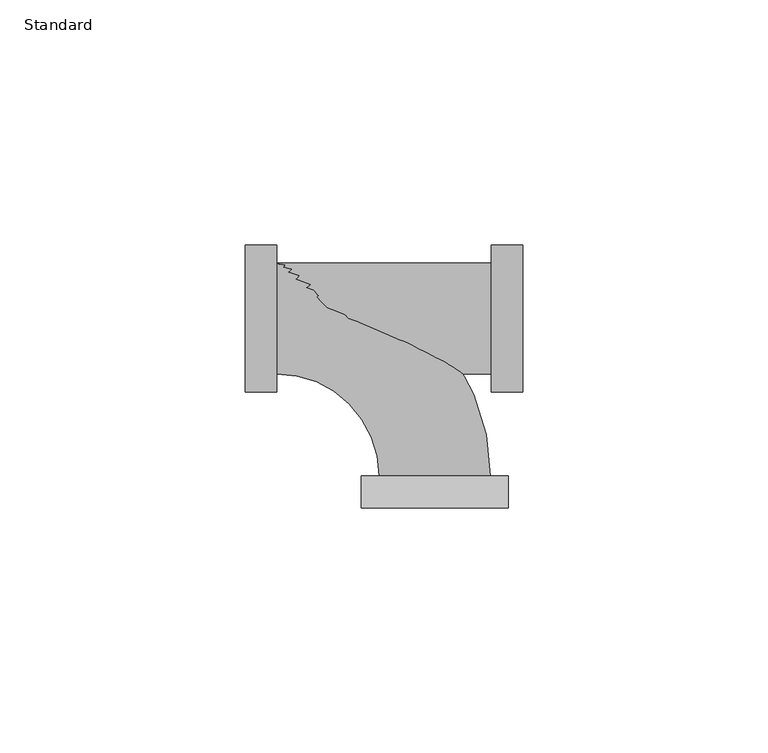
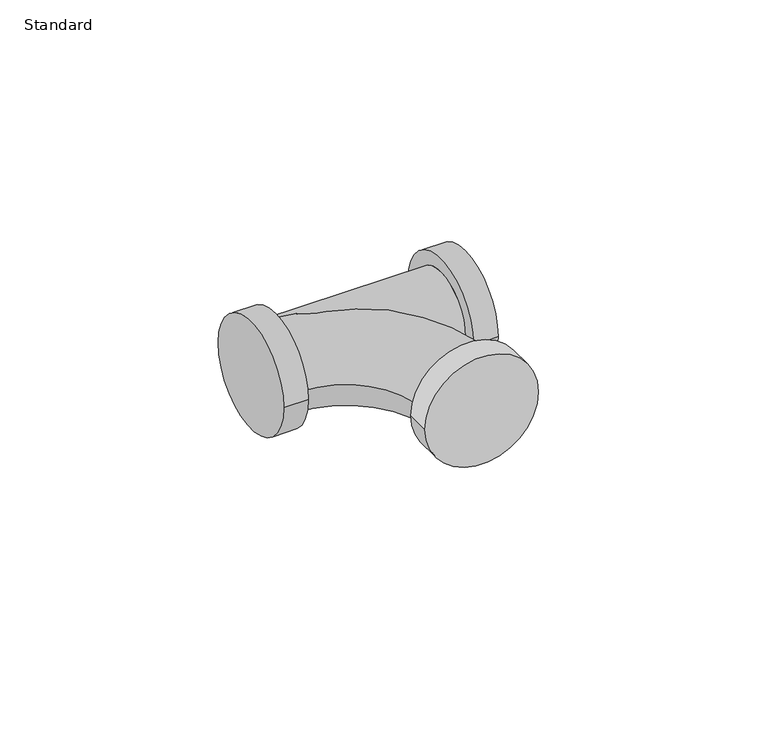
"""IFC4 building model written with IfcOpenShell, lengths in millimetres: pipe fitting geometry, Tee_Lubrizol_CPVC-FlowGuard_MX : Standard."""

import ifcopenshell
import ifcopenshell.guid

model = None  # the IFC model being written
_history = None  # IfcOwnerHistory: only IFC2X3 demands one
_inside = {}  # id of a spatial element -> (the spatial element, [elements in it])
_under = {}  # id of a project, library or spatial element -> (it, [spatial elements below it])
_declared = {}  # id of a project -> (the project, [libraries it declares])
_typed = {}  # id of a type object -> (the type object, [elements of that type])
_made_of = {}  # id of a material, layer set ... -> (it, [elements and type objects made of it])


def new_model(schema):
    """Start an empty IFC model of exactly this schema.

    Asked for "IFC4X3", IfcOpenShell would pick the latest addendum, in which some entities
    have other attributes; the version numbers below select the first issue.
    IFC2X3 requires an IfcOwnerHistory on every rooted entity: one is made here for all.
    """
    global model, _history
    if schema == "IFC4X3":
        model = ifcopenshell.file(schema_version=(4, 3, 0, 0))
    else:
        model = ifcopenshell.file(schema=schema)
    _inside.clear()
    _under.clear()
    _declared.clear()
    _typed.clear()
    _made_of.clear()
    _history = None
    if model.schema == "IFC2X3":
        org = make("IfcOrganization", Name="unknown")
        user = make(
            "IfcPersonAndOrganization",
            ThePerson=make("IfcPerson", FamilyName="unknown"),
            TheOrganization=org,
        )
        app = make(
            "IfcApplication",
            ApplicationDeveloper=org,
            Version="unknown",
            ApplicationFullName="unknown",
            ApplicationIdentifier="unknown",
        )
        _history = make(
            "IfcOwnerHistory",
            OwningUser=user,
            OwningApplication=app,
            ChangeAction="ADDED",
            CreationDate=0,
        )
    return model


def make(cls, **values):
    """One entity of the class cls with the attributes given. An attribute that is None is left unset."""
    return model.create_entity(
        cls, **{name: value for name, value in values.items() if value is not None}
    )


def rooted(cls, **values):
    """An entity with a GlobalId (a new one), such as an element, a storey or a relation."""
    return make(cls, GlobalId=ifcopenshell.guid.new(), OwnerHistory=_history, **values)


def si_unit(unit_type, name, prefix=None):
    """IfcSIUnit, for example si_unit("LENGTHUNIT", "METRE", prefix="MILLI")."""
    return make("IfcSIUnit", UnitType=unit_type, Prefix=prefix, Name=name)


def assignment(units):
    """IfcUnitAssignment: the units of a project."""
    return None if units is None else make("IfcUnitAssignment", Units=units)


def point(xyz):
    """IfcCartesianPoint."""
    return None if xyz is None else make("IfcCartesianPoint", Coordinates=xyz)


def direction(xyz):
    """IfcDirection."""
    return None if xyz is None else make("IfcDirection", DirectionRatios=xyz)


def frame(location, z_axis=None, x_axis=None):
    """IfcAxis2Placement3D, a coordinate frame: its origin and axes. An axis left out is left unset."""
    return make(
        "IfcAxis2Placement3D",
        Location=point(location),
        Axis=direction(z_axis),
        RefDirection=direction(x_axis),
    )


def origin():
    """The frame at (0, 0, 0) with its axes left unset."""
    return frame((0.0, 0.0, 0.0))


def place(relative_to, where):
    """IfcLocalPlacement: puts the frame where relative to a parent placement (None: the world)."""
    return make(
        "IfcLocalPlacement", PlacementRelTo=relative_to, RelativePlacement=where
    )


def context(
    kind, dimensions, precision=None, world=None, true_north=None, identifier=None
):
    """IfcGeometricRepresentationContext, for example the 3D "Model" context."""
    return make(
        "IfcGeometricRepresentationContext",
        ContextIdentifier=identifier,
        ContextType=kind,
        CoordinateSpaceDimension=dimensions,
        Precision=precision,
        WorldCoordinateSystem=world,
        TrueNorth=true_north,
    )


def project(units=None, contexts=None):
    """IfcProject with its units and contexts."""
    return rooted(
        "IfcProject",
        Name="project",
        RepresentationContexts=contexts,
        UnitsInContext=assignment(units),
    )


def spatial(cls, under=None, at=None, **own):
    """A site, building, storey or space (cls), placed at a placement, below another one or the project."""
    s = rooted(cls, ObjectPlacement=at, **own)
    if under is not None:
        _under.setdefault(under.id(), (under, []))[1].append(s)
    return s


def circle_curve(where, radius):
    """IfcCircle in the frame where."""
    return make("IfcCircle", Position=where, Radius=radius)


def ellipse_curve(where, semi_axis1, semi_axis2):
    """IfcEllipse in the frame where."""
    return make(
        "IfcEllipse", Position=where, SemiAxis1=semi_axis1, SemiAxis2=semi_axis2
    )


def trimmed(basis, trim1, trim2, sense, master):
    """IfcTrimmedCurve: the piece of a basis curve between two trims."""
    return make(
        "IfcTrimmedCurve",
        BasisCurve=basis,
        Trim1=trim1,
        Trim2=trim2,
        SenseAgreement=sense,
        MasterRepresentation=master,
    )


def shape(context_of_items, identifier, shape_type, items):
    """IfcShapeRepresentation: the items that make up one representation, for example the "Body"."""
    return make(
        "IfcShapeRepresentation",
        ContextOfItems=context_of_items,
        RepresentationIdentifier=identifier,
        RepresentationType=shape_type,
        Items=items,
    )


def source(mapping_origin, context_of_items, identifier, shape_type, items):
    """IfcRepresentationMap: a shape defined once, which mapped items show again and again."""
    return make(
        "IfcRepresentationMap",
        MappingOrigin=mapping_origin,
        MappedRepresentation=shape(context_of_items, identifier, shape_type, items),
    )


def transform(
    local_origin,
    x_axis=None,
    y_axis=None,
    z_axis=None,
    scale=None,
    scale2=None,
    scale3=None,
    uniform=True,
):
    """IfcCartesianTransformationOperator3D, or its non-uniform kind. x_axis, y_axis, z_axis: its Axis1, 2, 3."""
    if uniform:
        return make(
            "IfcCartesianTransformationOperator3D",
            Axis1=direction(x_axis),
            Axis2=direction(y_axis),
            LocalOrigin=point(local_origin),
            Scale=scale,
            Axis3=direction(z_axis),
        )
    return make(
        "IfcCartesianTransformationOperator3DnonUniform",
        Axis1=direction(x_axis),
        Axis2=direction(y_axis),
        LocalOrigin=point(local_origin),
        Scale=scale,
        Axis3=direction(z_axis),
        Scale2=scale2,
        Scale3=scale3,
    )


def mapped(mapping_source, mapping_target):
    """IfcMappedItem: shows the shape of a source again, moved by a transform."""
    return make(
        "IfcMappedItem", MappingSource=mapping_source, MappingTarget=mapping_target
    )


def made_of(thing, what):
    """Note that an element or type object is made of a material, layer set ...; save() writes the relation."""
    if what is not None:
        _made_of.setdefault(what.id(), (what, []))[1].append(thing)
    return thing


def element(
    cls,
    number,
    at=None,
    inside=None,
    cuts=None,
    type_object=None,
    material=None,
    context=None,
    identifier="Body",
    shape_type=None,
    held_by="IfcProductDefinitionShape",
    body=None,
    shapes=None,
    **own,
):
    """One element of the class cls, such as IfcWall. Its Tag is "e" and its number.

    at: its placement. inside: the storey or other place that contains it. cuts: it is an
    opening in that element (IfcRelVoidsElement). A single representation is given by context,
    identifier, shape_type and body (its items); several are given by shapes. held_by: the class
    of the entity that holds the representations. save() writes the other relations.
    """
    e = rooted(cls, Tag="e%d" % number, ObjectPlacement=at, **own)
    if body is not None:
        shapes = [shape(context, identifier, shape_type, body)]
    if shapes is not None:
        e.Representation = make(held_by, Representations=shapes)
    if inside is not None:
        _inside.setdefault(inside.id(), (inside, []))[1].append(e)
    if cuts is not None:
        rooted(
            "IfcRelVoidsElement", RelatingBuildingElement=cuts, RelatedOpeningElement=e
        )
    if type_object is not None:
        _typed.setdefault(type_object.id(), (type_object, []))[1].append(e)
    return made_of(e, material)


def aggregate(whole, parts):
    """IfcRelAggregates: a whole, such as a stair, and the parts it consists of."""
    return rooted("IfcRelAggregates", RelatingObject=whole, RelatedObjects=parts)


def save(model, path):
    """Write the relations noted so far, then the file.

    IfcRelAggregates (storeys below a building ...), IfcRelContainedInSpatialStructure (elements
    in a storey), IfcRelDefinesByType, IfcRelAssociatesMaterial and IfcRelDeclares: one each for
    every whole, place, type object, material and project.
    """
    for whole, parts in _under.values():
        aggregate(whole, parts)
    for where, things in _inside.values():
        rooted(
            "IfcRelContainedInSpatialStructure",
            RelatedElements=things,
            RelatingStructure=where,
        )
    for kind, things in _typed.values():
        rooted("IfcRelDefinesByType", RelatedObjects=things, RelatingType=kind)
    for what, things in _made_of.values():
        rooted("IfcRelAssociatesMaterial", RelatedObjects=things, RelatingMaterial=what)
    for by, libraries in _declared.values():
        rooted("IfcRelDeclares", RelatingContext=by, RelatedDefinitions=libraries)
    model.write(path)


def plane_surface(at):
    """IfcPlane: the flat surface through the origin of the frame at, square to its z axis."""
    return make("IfcPlane", Position=at)


def cylinder_surface(at, radius):
    """IfcCylindricalSurface: all points at the distance radius from the z axis of the frame at."""
    return make("IfcCylindricalSurface", Position=at, Radius=radius)


def revolved_surface(curve, axis_point, axis_direction):
    """IfcSurfaceOfRevolution: the curve turned about the line through axis_point along axis_direction."""
    return make(
        "IfcSurfaceOfRevolution",
        SweptCurve=make("IfcArbitraryOpenProfileDef", ProfileType="CURVE", Curve=curve),
        AxisPosition=make("IfcAxis1Placement", Location=point(axis_point), Axis=direction(axis_direction)),
    )


def advanced_brep(points, edges, surfaces, faces):
    """IfcAdvancedBrep: a solid bounded by faces that lie on surfaces and meet in shared edges.

    An edge is (start, end): straight between two places in points (the first is 0);
    or (start, end, curve); or (start, end, curve, False) where it runs against its curve.
    A face is (place in surfaces, loops), or (place, loops, False) where it looks against
    its surface's normal. A loop lists edges by number (the first is 1), with a minus sign
    where the edge is run from its end to its start. The first loop is the outer one.
    """
    corners = [point(p) for p in points]
    vertices = [make("IfcVertexPoint", VertexGeometry=c) for c in corners]
    made = []
    for start, end, *more in edges:
        made.append(
            make(
                "IfcEdgeCurve",
                EdgeStart=vertices[start],
                EdgeEnd=vertices[end],
                EdgeGeometry=more[0] if more else make("IfcPolyline", Points=[corners[start], corners[end]]),
                SameSense=more[1] if len(more) > 1 else True,
            )
        )
    hull = []
    for where, loops, *sense in faces:
        bounds = []
        for j, loop in enumerate(loops):
            ring = [make("IfcOrientedEdge", EdgeElement=made[abs(k) - 1], Orientation=k > 0) for k in loop]
            bounds.append(
                make(
                    "IfcFaceOuterBound" if j == 0 else "IfcFaceBound",
                    Bound=make("IfcEdgeLoop", EdgeList=ring),
                    Orientation=True,
                )
            )
        hull.append(make("IfcAdvancedFace", Bounds=bounds, FaceSurface=surfaces[where], SameSense=sense[0] if sense else True))
    return make("IfcAdvancedBrep", Outer=make("IfcClosedShell", CfsFaces=hull))


def standard_63efa88c(model_context):
    return source(origin(), model_context, "Body", "AdvancedBrep", [
        advanced_brep(
        [(-32.1940625, -11.3240625, 0.0), (-32.1940625, 11.3240625, 0.0), (-11.3240625, -32.1940625, 0.0), (11.3240625, -32.1940625, 0.0), (15.0071094, -38.6940625, 0.0), (-15.0071094, -38.6940625, 0.0), (15.0071094, -32.1940625, 0.0), (-15.0071094, -32.1940625, 0.0)],
        [
            (0, 1, circle_curve(frame((-32.1940625, 0.0, 0.0), z_axis=(-1.0, 0.0, 0.0), x_axis=(0.0, 1.0, 0.0)), 11.3240625)),
            (1, 0, circle_curve(frame((-32.1940625, 0.0, 0.0), z_axis=(-1.0, 0.0, 0.0), x_axis=(0.0, 1.0, 0.0)), 11.3240625)),
            (0, 2, circle_curve(frame((-32.1940625, -32.1940625, 0.0), z_axis=(0.0, 0.0, -1.0), x_axis=(0.0, 1.0, 0.0)), 20.87)),
            (2, 3, circle_curve(frame((0.0, -32.1940625, 0.0), z_axis=(-1.3378799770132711e-12, 1.0, 0.0), x_axis=(1.0, 1.3378799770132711e-12, 0.0)), 11.3240625)),
            (3, 1, circle_curve(frame((-32.1940625, -32.1940625, 0.0), z_axis=(0.0, 0.0, 1.0), x_axis=(0.0, 1.0, 0.0)), 43.518125)),
            (3, 2, circle_curve(frame((0.0, -32.1940625, 0.0), z_axis=(-1.0287938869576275e-12, 1.0, 0.0), x_axis=(1.0, 1.0287938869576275e-12, 0.0)), 11.3240625)),
            (4, 5, circle_curve(frame((0.0, -38.6940625, 0.0), z_axis=(0.0, -1.0, 0.0), x_axis=(-1.0, 0.0, 0.0)), 15.0071094)),
            (5, 4, circle_curve(frame((0.0, -38.6940625, 0.0), z_axis=(0.0, -1.0, 0.0), x_axis=(-1.0, 0.0, 0.0)), 15.0071094)),
            (6, 7, circle_curve(frame((0.0, -32.1940625, 0.0), z_axis=(0.0, 1.0, 0.0), x_axis=(-1.0, 0.0, 0.0)), 15.0071094)),
            (7, 6, circle_curve(frame((0.0, -32.1940625, 0.0), z_axis=(0.0, 1.0, 0.0), x_axis=(-1.0, 0.0, 0.0)), 15.0071094)),
            (4, 6),
            (7, 5),
        ],
        [
            plane_surface(frame((-32.1940625, 0.0, 0.0), z_axis=(-1.0, 0.0, 0.0), x_axis=(0.0, 0.0, 1.0))),
            revolved_surface(trimmed(ellipse_curve(frame((-32.1940625, 0.0, 0.0), z_axis=(-1.0, 0.0, 0.0), x_axis=(0.0, 1.0, 0.0)), 11.3240625, 11.3240625), [point((-32.1940625, -11.3240625, 0.0))], [point((-32.1940625, 11.3240625, 0.0))], True, "CARTESIAN"), (-32.1940625, -32.1940625, 0.0), (0.0, 0.0, -1.0)),
            revolved_surface(trimmed(ellipse_curve(frame((-32.1940625, 0.0, 0.0), z_axis=(-1.0, 0.0, 0.0), x_axis=(0.0, 1.0, 0.0)), 11.3240625, 11.3240625), [point((-32.1940625, 11.3240625, 0.0))], [point((-32.1940625, -11.3240625, 0.0))], True, "CARTESIAN"), (-32.1940625, -32.1940625, 0.0), (0.0, 0.0, -1.0)),
            plane_surface(frame((0.0, -38.6940625, 0.0), z_axis=(0.0, -1.0, 0.0), x_axis=(0.0, 0.0, 1.0))),
            plane_surface(frame((0.0, -32.1940625, 0.0), z_axis=(0.0, 1.0, 0.0), x_axis=(0.0, 0.0, 1.0))),
            cylinder_surface(frame((0.0, -38.6940625, 0.0), z_axis=(0.0, -1.0, 0.0), x_axis=(-1.0, 0.0, 0.0)), 15.0071094),
        ],
        [
            (0, [[1, 2]]),
            (1, [[-1, 3, 4, 5]]),
            (2, [[-2, -5, 6, -3]]),
            (3, [[7, 8]]),
            (4, [[9, 10], [-4, -6]]),
            (5, [[-7, 11, -10, 12]]),
            (5, [[-8, -12, -9, -11]]),
        ],
    ),
        advanced_brep(
        [(-32.1940625, -11.3240625, 0.0), (11.515625, -11.3240625, 0.0), (11.515625, 11.3240625, 0.0), (-32.1940625, 11.3240625, 0.0), (11.515625, -15.0071094, 0.0), (11.515625, 15.0071094, 0.0), (18.015625, -15.0071094, 0.0), (18.015625, 15.0071094, 0.0), (-38.6940625, -15.0071094, 0.0), (-38.6940625, 15.0071094, 0.0), (-32.1940625, -15.0071094, 0.0), (-32.1940625, 15.0071094, 0.0)],
        [
            (0, 1),
            (1, 2, circle_curve(frame((11.515625, 0.0, 0.0), z_axis=(-1.0, 0.0, 0.0), x_axis=(0.0, 1.0, 0.0)), 11.3240625)),
            (2, 3),
            (3, 0, circle_curve(frame((-32.1940625, 0.0, 0.0), z_axis=(1.0, 0.0, 0.0), x_axis=(0.0, 1.0, 0.0)), 11.3240625)),
            (0, 3, circle_curve(frame((-32.1940625, 0.0, 0.0), z_axis=(1.0, 0.0, 0.0), x_axis=(0.0, 1.0, 0.0)), 11.3240625)),
            (2, 1, circle_curve(frame((11.515625, 0.0, 0.0), z_axis=(-1.0, 0.0, 0.0), x_axis=(0.0, 1.0, 0.0)), 11.3240625)),
            (4, 5, circle_curve(frame((11.515625, 0.0, 0.0), z_axis=(-1.0, 0.0, 0.0), x_axis=(0.0, 1.0, 0.0)), 15.0071094)),
            (5, 4, circle_curve(frame((11.515625, 0.0, 0.0), z_axis=(-1.0, 0.0, 0.0), x_axis=(0.0, 1.0, 0.0)), 15.0071094)),
            (6, 7, circle_curve(frame((18.015625, 0.0, 0.0), z_axis=(1.0, 0.0, 0.0), x_axis=(0.0, 1.0, 0.0)), 15.0071094)),
            (7, 6, circle_curve(frame((18.015625, 0.0, 0.0), z_axis=(1.0, 0.0, 0.0), x_axis=(0.0, 1.0, 0.0)), 15.0071094)),
            (4, 6),
            (7, 5),
            (8, 9, circle_curve(frame((-38.6940625, 0.0, 0.0), z_axis=(-1.0, 0.0, 0.0), x_axis=(0.0, 1.0, 0.0)), 15.0071094)),
            (9, 8, circle_curve(frame((-38.6940625, 0.0, 0.0), z_axis=(-1.0, 0.0, 0.0), x_axis=(0.0, 1.0, 0.0)), 15.0071094)),
            (10, 11, circle_curve(frame((-32.1940625, 0.0, 0.0), z_axis=(1.0, 0.0, 0.0), x_axis=(0.0, 1.0, 0.0)), 15.0071094)),
            (11, 10, circle_curve(frame((-32.1940625, 0.0, 0.0), z_axis=(1.0, 0.0, 0.0), x_axis=(0.0, 1.0, 0.0)), 15.0071094)),
            (8, 10),
            (11, 9),
        ],
        [
            cylinder_surface(frame((-32.1940625, 0.0, 0.0), z_axis=(-1.0, 0.0, 0.0), x_axis=(0.0, 1.0, 0.0)), 11.3240625),
            plane_surface(frame((11.515625, 0.0, 0.0), z_axis=(-1.0, 0.0, 0.0), x_axis=(0.0, 0.0, 1.0))),
            plane_surface(frame((18.015625, 0.0, 0.0), z_axis=(1.0, 0.0, 0.0), x_axis=(0.0, 0.0, 1.0))),
            cylinder_surface(frame((11.515625, 0.0, 0.0), z_axis=(-1.0, 0.0, 0.0), x_axis=(0.0, 1.0, 0.0)), 15.0071094),
            plane_surface(frame((-38.6940625, 0.0, 0.0), z_axis=(-1.0, 0.0, 0.0), x_axis=(0.0, 0.0, 1.0))),
            plane_surface(frame((-32.1940625, 0.0, 0.0), z_axis=(1.0, 0.0, 0.0), x_axis=(0.0, 0.0, 1.0))),
            cylinder_surface(frame((-38.6940625, 0.0, 0.0), z_axis=(-1.0, 0.0, 0.0), x_axis=(0.0, 1.0, 0.0)), 15.0071094),
        ],
        [
            (0, [[1, 2, 3, 4]]),
            (0, [[-1, 5, -3, 6]]),
            (1, [[7, 8], [-2, -6]]),
            (2, [[9, 10]]),
            (3, [[-7, 11, -10, 12]]),
            (3, [[-8, -12, -9, -11]]),
            (4, [[13, 14]]),
            (5, [[15, 16], [-4, -5]]),
            (6, [[-13, 17, -16, 18]]),
            (6, [[-14, -18, -15, -17]]),
        ],
    ),
    ])


if __name__ == "__main__":
    model = new_model("IFC4")
    model_context = context("Model", 3, world=origin())
    ifc_project = project(units=[si_unit("LENGTHUNIT", "METRE", prefix="MILLI")], contexts=[model_context])
    site = spatial("IfcSite", under=ifc_project)
    building = spatial("IfcBuilding", under=site)
    placement = place(None, origin())
    standard_shape = standard_63efa88c(model_context)
    element("IfcPipeFitting", 1, ObjectType="Tee_Lubrizol_CPVC-FlowGuard_MX : Standard", at=placement, inside=building, context=model_context, shape_type="MappedRepresentation", body=[
        mapped(standard_shape, transform((0.0, 0.0, 0.0), x_axis=(1.0, 0.0, 0.0), y_axis=(0.0, 1.0, 0.0), z_axis=(0.0, 0.0, 1.0))),
    ])
    save(model, "model.ifc")
